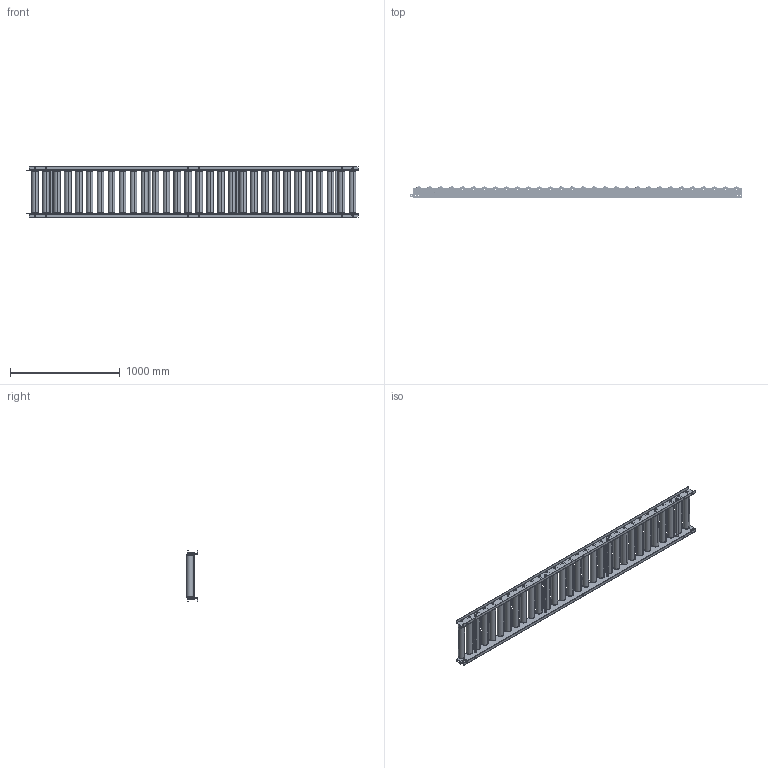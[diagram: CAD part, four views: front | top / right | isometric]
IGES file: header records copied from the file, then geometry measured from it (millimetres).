
Start section: SolidWorks IGES file using analytic representation for surfaces
Global section: file name: C:\Users\0656\Desktop\変換ツール\iges変換\S-6023NB.igs; native system: SolidWorks 2023; preprocessor: SolidWorks 2023; author: 0656; date: 240226.153029; units: millimetre
Bounding box: 3031.5 x 101.75 x 460 mm (x, y, z)
Surface area: 5603457.3 mm2 (no closed solid volume)
Topology: 0 solids, 0 shells, 1730 faces, 28416 edges, 28416 vertices
Faces by surface type: bspline 1072, revolution 658
